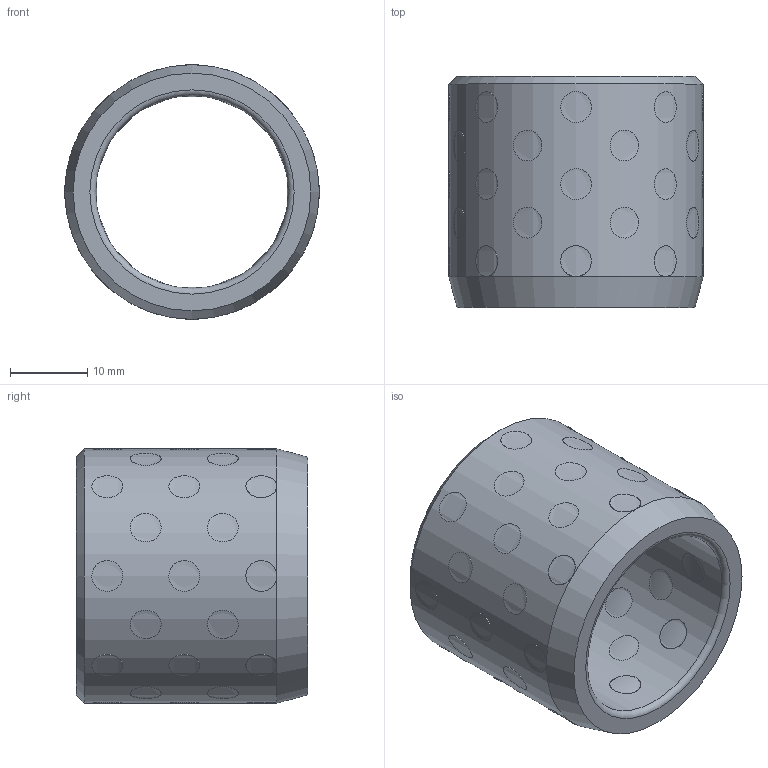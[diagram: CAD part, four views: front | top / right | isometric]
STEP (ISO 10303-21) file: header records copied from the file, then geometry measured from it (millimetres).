
FILE_DESCRIPTION( ( 'STEP AP203' ), '1' );
FILE_NAME( 'D:/Cuma/18 03 2010/D30.04/D30.04_253033.step', '2003-01-24T23:21:24', ( ' ' ), ( ' ' ), 'XStep 1.0', ' ', ' ' );
FILE_SCHEMA( ( 'CONFIG_CONTROL_DESIGN' ) );
Length unit declared in the file: metre
Products named in the file (49): 1; 2; 3; 4; 5; 6; 7; 8; 9; 10; 11; 12; 13; 14; 15; 16; 17; 18; 19; 20; 21; 22; 23; 24; 25; 26; 27; 28; 29; 30; 31; 32; 33; 34; 35; 36; 37; 38; 39; 40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
Bounding box: 33 x 30 x 33 mm (x, y, z)
Volume: 13063.9 mm3; surface area: 9610.3 mm2
Topology: 49 solids, 49 shells, 152 faces, 158 edges, 104 vertices
Faces by surface type: cylinder 146, torus 2, plane 2, cone 2
Full cylindrical faces by diameter (mm): 4 x48, 25 x1, 33 x1
Entity records: 9621 total; most frequent: CARTESIAN_POINT 5593, DIRECTION 418, CC_DESIGN_PERSON_AND_ORGANIZATION_ASSIGNMENT 245, AXIS2_PLACEMENT_3D 209, EDGE_LOOP 208, ORIENTED_EDGE 208, FACE_OUTER_BOUND 204, PERSON_AND_ORGANIZATION_ROLE 196
